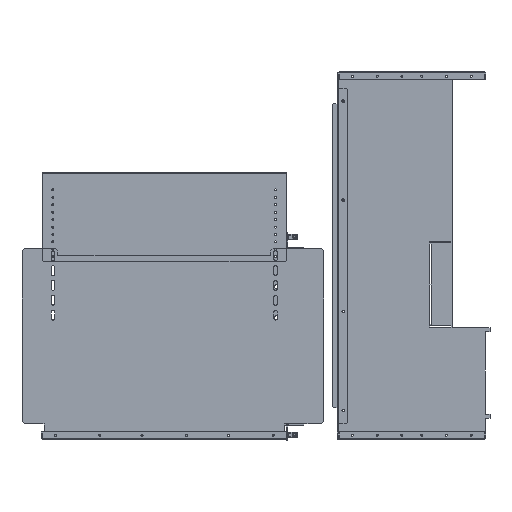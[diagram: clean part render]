
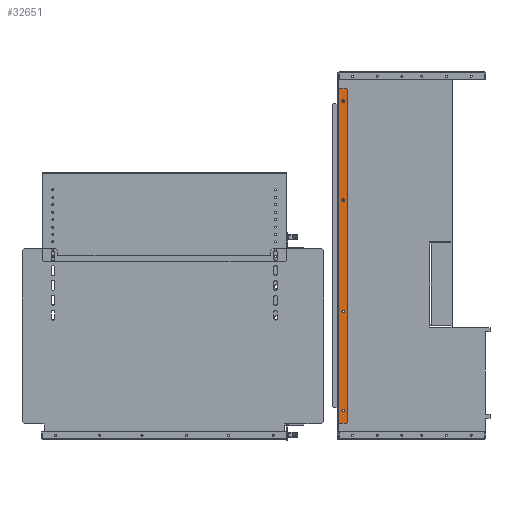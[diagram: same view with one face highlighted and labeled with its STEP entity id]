
A CAD part, front view. The second image highlights one B-rep face of the part: STEP entity #32651.
In plain terms, the highlighted planar face has unit normal (0, -1, 0).
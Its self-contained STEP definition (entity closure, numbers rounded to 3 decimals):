
#21471=CARTESIAN_POINT(' ',(-339.,-331.,16.5));
#21476=DIRECTION(' ',(0.,0.,-1.));
#21481=VECTOR(' ',#21476,1.);
#21486=LINE('',#21471,#21481);
#21491=CARTESIAN_POINT(' ',(-339.,-331.,16.5));
#21492=VERTEX_POINT(' ',#21491);
#21496=CARTESIAN_POINT(' ',(-339.,-331.,0.6));
#21497=VERTEX_POINT(' ',#21496);
#21501=EDGE_CURVE(' ',#21492,#21497,#21486,.T.);
#21891=CARTESIAN_POINT(' ',(339.,-331.,16.5));
#21892=VERTEX_POINT(' ',#21891);
#21906=CARTESIAN_POINT(' ',(339.,-331.,0.6));
#21911=DIRECTION(' ',(0.,0.,1.));
#21916=VECTOR(' ',#21911,1.);
#21921=LINE('',#21906,#21916);
#21926=CARTESIAN_POINT(' ',(339.,-331.,0.6));
#21927=VERTEX_POINT(' ',#21926);
#21931=EDGE_CURVE(' ',#21927,#21892,#21921,.T.);
#31971=CARTESIAN_POINT(' ',(339.,-331.,0.6));
#31976=DIRECTION(' ',(-1.,0.,0.));
#31981=VECTOR(' ',#31976,1.);
#31986=LINE('',#31971,#31981);
#31991=EDGE_CURVE(' ',#21927,#21497,#31986,.T.);
#32141=DIRECTION(' ',(0.,-1.,0.));
#32146=CARTESIAN_POINT(' ',(-339.,-331.,0.6));
#32151=DIRECTION(' ',(1.,0.,0.));
#32156=AXIS2_PLACEMENT_3D(' ',#32146,#32141,#32151);
#32161=PLANE('NONE',#32156);
#32166=ORIENTED_EDGE(' ',*,*,#21931,.T.);
#32171=CARTESIAN_POINT(' ',(339.,-331.,16.5));
#32176=DIRECTION(' ',(-0.707,0.,0.707));
#32181=VECTOR(' ',#32176,1.);
#32186=LINE('',#32171,#32181);
#32191=CARTESIAN_POINT(' ',(337.,-331.,18.5));
#32192=VERTEX_POINT(' ',#32191);
#32196=EDGE_CURVE(' ',#21892,#32192,#32186,.T.);
#32201=ORIENTED_EDGE(' ',*,*,#32196,.T.);
#32206=CARTESIAN_POINT(' ',(337.,-331.,18.5));
#32211=DIRECTION(' ',(-1.,0.,0.));
#32216=VECTOR(' ',#32211,1.);
#32221=LINE('',#32206,#32216);
#32226=CARTESIAN_POINT(' ',(-337.,-331.,18.5));
#32227=VERTEX_POINT(' ',#32226);
#32231=EDGE_CURVE(' ',#32192,#32227,#32221,.T.);
#32236=ORIENTED_EDGE(' ',*,*,#32231,.T.);
#32241=CARTESIAN_POINT(' ',(-337.,-331.,18.5));
#32246=DIRECTION(' ',(-0.707,0.,-0.707));
#32251=VECTOR(' ',#32246,1.);
#32256=LINE('',#32241,#32251);
#32261=EDGE_CURVE(' ',#32227,#21492,#32256,.T.);
#32266=ORIENTED_EDGE(' ',*,*,#32261,.T.);
#32271=ORIENTED_EDGE(' ',*,*,#21501,.T.);
#32276=ORIENTED_EDGE(' ',*,*,#31991,.F.);
#32281=EDGE_LOOP(' ',(#32166,#32201,#32236,#32266,#32271,#32276));
#32286=FACE_OUTER_BOUND(' ',#32281,.T.);
#32291=CARTESIAN_POINT(' ',(112.5,-331.,10.4));
#32296=DIRECTION(' ',(0.,-1.,0.));
#32301=DIRECTION(' ',(0.,0.,1.));
#32306=AXIS2_PLACEMENT_3D(' ',#32291,#32296,#32301);
#32311=CIRCLE('',#32306,2.1);
#32316=CARTESIAN_POINT(' ',(112.5,-331.,12.5));
#32317=VERTEX_POINT(' ',#32316);
#32321=CARTESIAN_POINT(' ',(112.5,-331.,8.3));
#32322=VERTEX_POINT(' ',#32321);
#32326=EDGE_CURVE(' ',#32317,#32322,#32311,.T.);
#32331=ORIENTED_EDGE(' ',*,*,#32326,.F.);
#32336=CARTESIAN_POINT(' ',(112.5,-331.,10.4));
#32341=DIRECTION(' ',(-0.,-1.,0.));
#32346=DIRECTION(' ',(0.,0.,-1.));
#32351=AXIS2_PLACEMENT_3D(' ',#32336,#32341,#32346);
#32356=CIRCLE('',#32351,2.1);
#32361=EDGE_CURVE(' ',#32322,#32317,#32356,.T.);
#32366=ORIENTED_EDGE(' ',*,*,#32361,.F.);
#32371=EDGE_LOOP(' ',(#32331,#32366));
#32376=FACE_BOUND(' ',#32371,.T.);
#32381=CARTESIAN_POINT(' ',(-112.5,-331.,10.4));
#32386=DIRECTION(' ',(0.,-1.,0.));
#32391=DIRECTION(' ',(0.,0.,1.));
#32396=AXIS2_PLACEMENT_3D(' ',#32381,#32386,#32391);
#32401=CIRCLE('',#32396,2.1);
#32406=CARTESIAN_POINT(' ',(-112.5,-331.,12.5));
#32407=VERTEX_POINT(' ',#32406);
#32411=CARTESIAN_POINT(' ',(-112.5,-331.,8.3));
#32412=VERTEX_POINT(' ',#32411);
#32416=EDGE_CURVE(' ',#32407,#32412,#32401,.T.);
#32421=ORIENTED_EDGE(' ',*,*,#32416,.F.);
#32426=CARTESIAN_POINT(' ',(-112.5,-331.,10.4));
#32431=DIRECTION(' ',(-0.,-1.,0.));
#32436=DIRECTION(' ',(0.,0.,-1.));
#32441=AXIS2_PLACEMENT_3D(' ',#32426,#32431,#32436);
#32446=CIRCLE('',#32441,2.1);
#32451=EDGE_CURVE(' ',#32412,#32407,#32446,.T.);
#32456=ORIENTED_EDGE(' ',*,*,#32451,.F.);
#32461=EDGE_LOOP(' ',(#32421,#32456));
#32466=FACE_BOUND(' ',#32461,.T.);
#32471=CARTESIAN_POINT(' ',(-312.5,-331.,10.4));
#32476=DIRECTION(' ',(0.,-1.,0.));
#32481=DIRECTION(' ',(0.,0.,1.));
#32486=AXIS2_PLACEMENT_3D(' ',#32471,#32476,#32481);
#32491=CIRCLE('',#32486,2.1);
#32496=CARTESIAN_POINT(' ',(-312.5,-331.,12.5));
#32497=VERTEX_POINT(' ',#32496);
#32501=CARTESIAN_POINT(' ',(-312.5,-331.,8.3));
#32502=VERTEX_POINT(' ',#32501);
#32506=EDGE_CURVE(' ',#32497,#32502,#32491,.T.);
#32511=ORIENTED_EDGE(' ',*,*,#32506,.F.);
#32516=CARTESIAN_POINT(' ',(-312.5,-331.,10.4));
#32521=DIRECTION(' ',(-0.,-1.,0.));
#32526=DIRECTION(' ',(0.,0.,-1.));
#32531=AXIS2_PLACEMENT_3D(' ',#32516,#32521,#32526);
#32536=CIRCLE('',#32531,2.1);
#32541=EDGE_CURVE(' ',#32502,#32497,#32536,.T.);
#32546=ORIENTED_EDGE(' ',*,*,#32541,.F.);
#32551=EDGE_LOOP(' ',(#32511,#32546));
#32556=FACE_BOUND(' ',#32551,.T.);
#32561=CARTESIAN_POINT(' ',(312.5,-331.,10.4));
#32566=DIRECTION(' ',(0.,-1.,0.));
#32571=DIRECTION(' ',(0.,0.,1.));
#32576=AXIS2_PLACEMENT_3D(' ',#32561,#32566,#32571);
#32581=CIRCLE('',#32576,2.1);
#32586=CARTESIAN_POINT(' ',(312.5,-331.,12.5));
#32587=VERTEX_POINT(' ',#32586);
#32591=CARTESIAN_POINT(' ',(312.5,-331.,8.3));
#32592=VERTEX_POINT(' ',#32591);
#32596=EDGE_CURVE(' ',#32587,#32592,#32581,.T.);
#32601=ORIENTED_EDGE(' ',*,*,#32596,.F.);
#32606=CARTESIAN_POINT(' ',(312.5,-331.,10.4));
#32611=DIRECTION(' ',(-0.,-1.,0.));
#32616=DIRECTION(' ',(0.,0.,-1.));
#32621=AXIS2_PLACEMENT_3D(' ',#32606,#32611,#32616);
#32626=CIRCLE('',#32621,2.1);
#32631=EDGE_CURVE(' ',#32592,#32587,#32626,.T.);
#32636=ORIENTED_EDGE(' ',*,*,#32631,.F.);
#32641=EDGE_LOOP(' ',(#32601,#32636));
#32646=FACE_BOUND(' ',#32641,.T.);
#32651=ADVANCED_FACE('NONE',(#32286,#32376,#32466,#32556,#32646),#32161,.T.);
